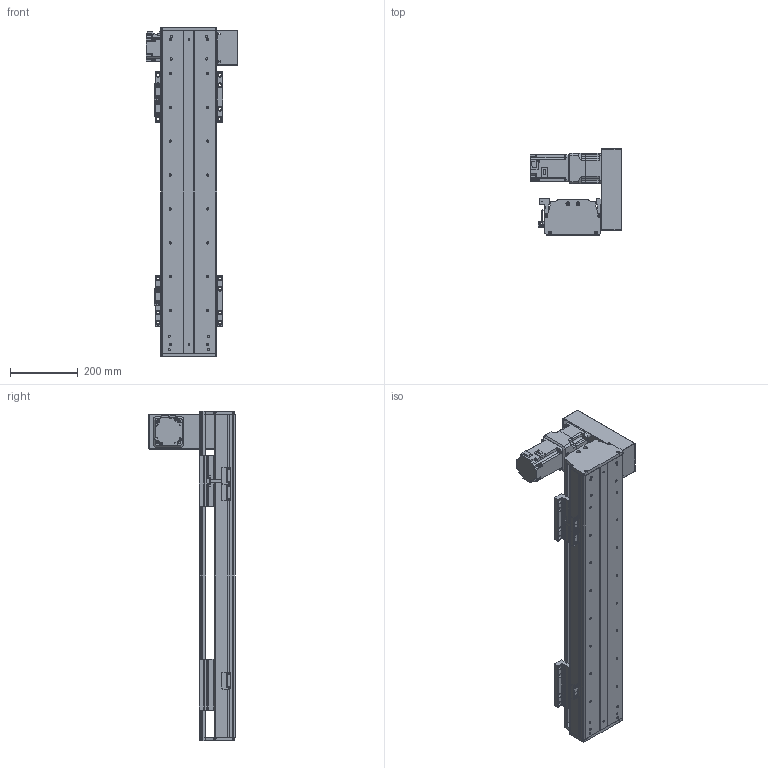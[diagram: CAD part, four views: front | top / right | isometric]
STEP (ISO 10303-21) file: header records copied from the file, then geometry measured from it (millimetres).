
FILE_DESCRIPTION(/* description */ (''),/* implementation_level */ '2;1');
FILE_NAME(/* name */ 'C:\Users\PC\Desktop\3D도면\STEP\새 폴더\DSB165-UR7G-W0600-L.stp',/* time_stamp */ '2018-06-25T15:14:50+09:00',/* author */ ('PC'),/* organization */ (''),/* preprocessor_version */ 'ST-DEVELOPER v16.5',/* originating_system */ 'Autodesk Inventor 2017',/* authorisation */ '');
FILE_SCHEMA (('AUTOMOTIVE_DESIGN { 1 0 10303 214 3 1 1 }'));
Length unit declared in the file: millimetre
Products named in the file (12): DSB165-UL7G-W0600-R_MIR; DSB165-BASE-L_MIR; hg-kr73__MIR; ab0901-p0401300102_MIR; 11-DSB165 BELT COVER_MIR; 12-DSB165-REAR COVER_MIR; 14-DSB165-FRONT COVER_MIR; DSB165-UP COVER_MIR; DSR165-SENSOR DOG_MIR; pm-y65_step_MIR; SENSOR BRACKET(EE-SX674A)_MIR; DSB165-TABLE(MSB20S)_MIR
Assembly tree (16 placements, depth 2):
  DSB165-UL7G-W0600-R_MIR
    DSB165-BASE-L_MIR
    hg-kr73__MIR
    ab0901-p0401300102_MIR
    11-DSB165 BELT COVER_MIR
    12-DSB165-REAR COVER_MIR
    14-DSB165-FRONT COVER_MIR
    DSB165-UP COVER_MIR
    DSR165-SENSOR DOG_MIR
    pm-y65_step_MIR  x3
    SENSOR BRACKET(EE-SX674A)_MIR  x3
    DSB165-TABLE(MSB20S)_MIR  x2
Bounding box: 270 x 254 x 970 mm (x, y, z)
Volume: 7038603.3 mm3; surface area: 1618917.9 mm2
Topology: 17 solids, 17 shells, 1653 faces, 4444 edges, 2930 vertices
Faces by surface type: plane 921, cylinder 612, cone 108, sphere 8, torus 4
Full cylindrical faces by diameter (mm): 2.459 x20, 3.5 x6, 4.134 x42, 4.5 x18, 5 x27, 5.5 x36, 5.9 x4, 6 x4, 6.6 x14, 6.647 x36, 6.8 x1, 7 x4, 7.6 x4, 8.4 x1, 8.5 x24, 8.7 x1, 9.5 x32, 11 x6, 14 x16, 19 x1, 22 x1, 24 x1, 25 x1, 28 x1, 67 x1, 70 x2, 80 x1
Entity records: 35836 total; most frequent: DIRECTION 6202, CARTESIAN_POINT 6027, ORIENTED_EDGE 5506, EDGE_CURVE 2753, AXIS2_PLACEMENT_3D 2271, VERTEX_POINT 1958, EDGE_LOOP 1703, LINE 1660
